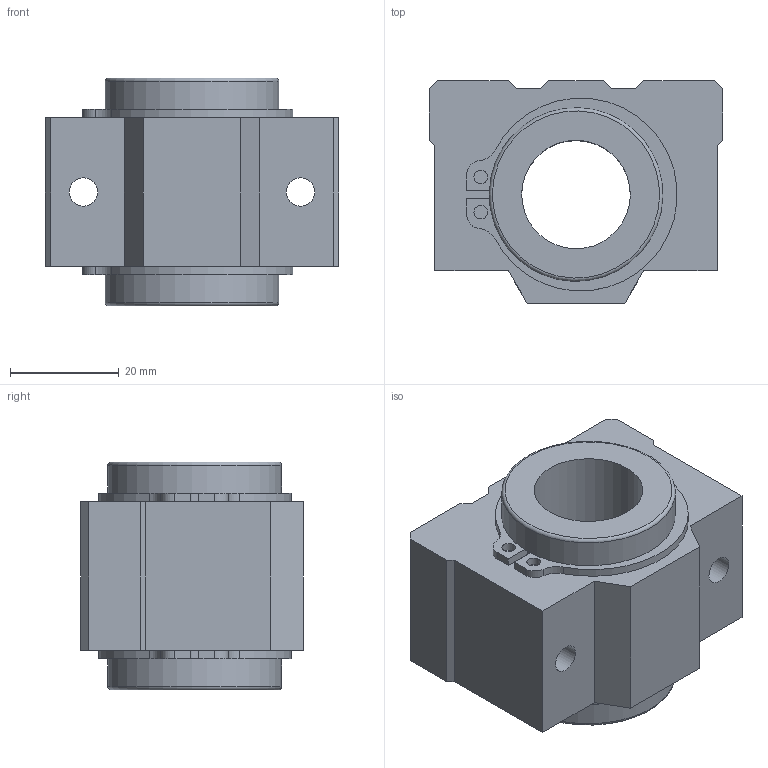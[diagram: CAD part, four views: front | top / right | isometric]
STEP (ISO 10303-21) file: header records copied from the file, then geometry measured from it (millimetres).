
FILE_DESCRIPTION(('STEP AP203'),'1');
FILE_NAME('//192.168.1.1/share/s-4 技術開発/s-4-4_CAD/s-4-4-3_見直し済み/008 修正済み/LC-C/LC-C_TOP/LC-20VCUU.step','2022-05-19T01:26:53',(' '),(' '),'Spatial InterOp 3D',' ',' ');
FILE_SCHEMA(('CONFIG_CONTROL_DESIGN'));
Length unit declared in the file: millimetre
Products named in the file (4): 1; 2; 3; 4
Bounding box: 54 x 41 x 42 mm (x, y, z)
Volume: 51177 mm3; surface area: 21129.4 mm2
Topology: 4 solids, 4 shells, 71 faces, 176 edges, 117 vertices
Faces by surface type: plane 42, cylinder 27, torus 2
Full cylindrical faces by diameter (mm): 2.5 x4, 5.2 x4, 20 x1, 30.5 x2, 32 x4
Entity records: 2212 total; most frequent: DIRECTION 360, CARTESIAN_POINT 345, ORIENTED_EDGE 312, EDGE_CURVE 156, AXIS2_PLACEMENT_3D 129, VERTEX_POINT 114, EDGE_LOOP 108, LINE 102
